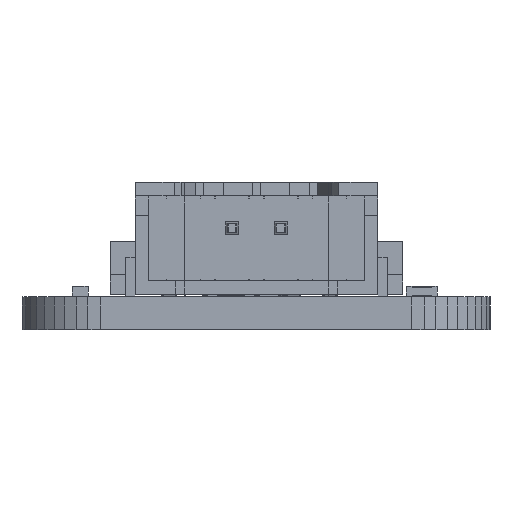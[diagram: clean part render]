
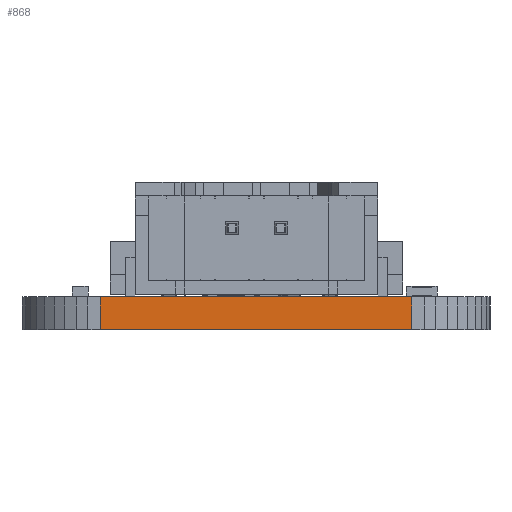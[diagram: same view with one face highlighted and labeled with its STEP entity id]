
A CAD part, front view. The second image highlights one B-rep face of the part: STEP entity #868.
In plain terms, the highlighted planar face has unit normal (-0.001, -1, 0).
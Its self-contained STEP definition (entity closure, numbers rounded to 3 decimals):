
#119 = PLANE('',#120);
#120 = AXIS2_PLACEMENT_3D('',#121,#122,#123);
#121 = CARTESIAN_POINT('',(-12.012,-7.,1.691));
#122 = DIRECTION('',(0.,0.,-1.));
#123 = DIRECTION('',(-1.,0.,0.));
#173 = PLANE('',#174);
#174 = AXIS2_PLACEMENT_3D('',#175,#176,#177);
#175 = CARTESIAN_POINT('',(-12.012,-7.,0.));
#176 = DIRECTION('',(0.,0.,-1.));
#177 = DIRECTION('',(-1.,0.,0.));
#760 = PLANE('',#761);
#761 = AXIS2_PLACEMENT_3D('',#762,#763,#764);
#762 = CARTESIAN_POINT('',(-8.628,-10.963,0.));
#763 = DIRECTION('',(0.059,0.998,0.));
#764 = DIRECTION('',(0.998,-0.059,0.));
#798 = VERTEX_POINT('',#799);
#799 = CARTESIAN_POINT('',(-8.,-11.,1.691));
#820 = EDGE_CURVE('',#821,#798,#823,.T.);
#821 = VERTEX_POINT('',#822);
#822 = CARTESIAN_POINT('',(-8.,-11.,0.));
#823 = SURFACE_CURVE('',#824,(#828,#835),.PCURVE_S1.);
#824 = LINE('',#825,#826);
#825 = CARTESIAN_POINT('',(-8.,-11.,0.));
#826 = VECTOR('',#827,1.);
#827 = DIRECTION('',(0.,0.,1.));
#828 = PCURVE('',#760,#829);
#829 = DEFINITIONAL_REPRESENTATION('',(#830),#834);
#830 = LINE('',#831,#832);
#831 = CARTESIAN_POINT('',(0.629,0.));
#832 = VECTOR('',#833,1.);
#833 = DIRECTION('',(0.,-1.));
#834 = ( GEOMETRIC_REPRESENTATION_CONTEXT(2) 
PARAMETRIC_REPRESENTATION_CONTEXT() REPRESENTATION_CONTEXT('2D SPACE',''
  ) );
#835 = PCURVE('',#836,#841);
#836 = PLANE('',#837);
#837 = AXIS2_PLACEMENT_3D('',#838,#839,#840);
#838 = CARTESIAN_POINT('',(-8.,-11.,0.));
#839 = DIRECTION('',(0.001,1.,0.));
#840 = DIRECTION('',(1.,-0.001,0.));
#841 = DEFINITIONAL_REPRESENTATION('',(#842),#846);
#842 = LINE('',#843,#844);
#843 = CARTESIAN_POINT('',(0.,0.));
#844 = VECTOR('',#845,1.);
#845 = DIRECTION('',(0.,-1.));
#846 = ( GEOMETRIC_REPRESENTATION_CONTEXT(2) 
PARAMETRIC_REPRESENTATION_CONTEXT() REPRESENTATION_CONTEXT('2D SPACE',''
  ) );
#868 = ADVANCED_FACE('',(#869),#836,.F.);
#869 = FACE_BOUND('',#870,.F.);
#870 = EDGE_LOOP('',(#871,#872,#895,#923));
#871 = ORIENTED_EDGE('',*,*,#820,.T.);
#872 = ORIENTED_EDGE('',*,*,#873,.T.);
#873 = EDGE_CURVE('',#798,#874,#876,.T.);
#874 = VERTEX_POINT('',#875);
#875 = CARTESIAN_POINT('',(8.,-11.012,1.691));
#876 = SURFACE_CURVE('',#877,(#881,#888),.PCURVE_S1.);
#877 = LINE('',#878,#879);
#878 = CARTESIAN_POINT('',(-8.,-11.,1.691));
#879 = VECTOR('',#880,1.);
#880 = DIRECTION('',(1.,-0.001,0.));
#881 = PCURVE('',#836,#882);
#882 = DEFINITIONAL_REPRESENTATION('',(#883),#887);
#883 = LINE('',#884,#885);
#884 = CARTESIAN_POINT('',(0.,-1.691));
#885 = VECTOR('',#886,1.);
#886 = DIRECTION('',(1.,0.));
#887 = ( GEOMETRIC_REPRESENTATION_CONTEXT(2) 
PARAMETRIC_REPRESENTATION_CONTEXT() REPRESENTATION_CONTEXT('2D SPACE',''
  ) );
#888 = PCURVE('',#119,#889);
#889 = DEFINITIONAL_REPRESENTATION('',(#890),#894);
#890 = LINE('',#891,#892);
#891 = CARTESIAN_POINT('',(-4.012,-4.));
#892 = VECTOR('',#893,1.);
#893 = DIRECTION('',(-1.,-0.001));
#894 = ( GEOMETRIC_REPRESENTATION_CONTEXT(2) 
PARAMETRIC_REPRESENTATION_CONTEXT() REPRESENTATION_CONTEXT('2D SPACE',''
  ) );
#895 = ORIENTED_EDGE('',*,*,#896,.F.);
#896 = EDGE_CURVE('',#897,#874,#899,.T.);
#897 = VERTEX_POINT('',#898);
#898 = CARTESIAN_POINT('',(8.,-11.012,0.));
#899 = SURFACE_CURVE('',#900,(#904,#911),.PCURVE_S1.);
#900 = LINE('',#901,#902);
#901 = CARTESIAN_POINT('',(8.,-11.012,0.));
#902 = VECTOR('',#903,1.);
#903 = DIRECTION('',(0.,0.,1.));
#904 = PCURVE('',#836,#905);
#905 = DEFINITIONAL_REPRESENTATION('',(#906),#910);
#906 = LINE('',#907,#908);
#907 = CARTESIAN_POINT('',(16.,0.));
#908 = VECTOR('',#909,1.);
#909 = DIRECTION('',(0.,-1.));
#910 = ( GEOMETRIC_REPRESENTATION_CONTEXT(2) 
PARAMETRIC_REPRESENTATION_CONTEXT() REPRESENTATION_CONTEXT('2D SPACE',''
  ) );
#911 = PCURVE('',#912,#917);
#912 = PLANE('',#913);
#913 = AXIS2_PLACEMENT_3D('',#914,#915,#916);
#914 = CARTESIAN_POINT('',(8.,-11.012,0.));
#915 = DIRECTION('',(-0.078,0.997,0.));
#916 = DIRECTION('',(0.997,0.078,0.));
#917 = DEFINITIONAL_REPRESENTATION('',(#918),#922);
#918 = LINE('',#919,#920);
#919 = CARTESIAN_POINT('',(0.,0.));
#920 = VECTOR('',#921,1.);
#921 = DIRECTION('',(0.,-1.));
#922 = ( GEOMETRIC_REPRESENTATION_CONTEXT(2) 
PARAMETRIC_REPRESENTATION_CONTEXT() REPRESENTATION_CONTEXT('2D SPACE',''
  ) );
#923 = ORIENTED_EDGE('',*,*,#924,.F.);
#924 = EDGE_CURVE('',#821,#897,#925,.T.);
#925 = SURFACE_CURVE('',#926,(#930,#937),.PCURVE_S1.);
#926 = LINE('',#927,#928);
#927 = CARTESIAN_POINT('',(-8.,-11.,0.));
#928 = VECTOR('',#929,1.);
#929 = DIRECTION('',(1.,-0.001,0.));
#930 = PCURVE('',#836,#931);
#931 = DEFINITIONAL_REPRESENTATION('',(#932),#936);
#932 = LINE('',#933,#934);
#933 = CARTESIAN_POINT('',(0.,0.));
#934 = VECTOR('',#935,1.);
#935 = DIRECTION('',(1.,0.));
#936 = ( GEOMETRIC_REPRESENTATION_CONTEXT(2) 
PARAMETRIC_REPRESENTATION_CONTEXT() REPRESENTATION_CONTEXT('2D SPACE',''
  ) );
#937 = PCURVE('',#173,#938);
#938 = DEFINITIONAL_REPRESENTATION('',(#939),#943);
#939 = LINE('',#940,#941);
#940 = CARTESIAN_POINT('',(-4.012,-4.));
#941 = VECTOR('',#942,1.);
#942 = DIRECTION('',(-1.,-0.001));
#943 = ( GEOMETRIC_REPRESENTATION_CONTEXT(2) 
PARAMETRIC_REPRESENTATION_CONTEXT() REPRESENTATION_CONTEXT('2D SPACE',''
  ) );
